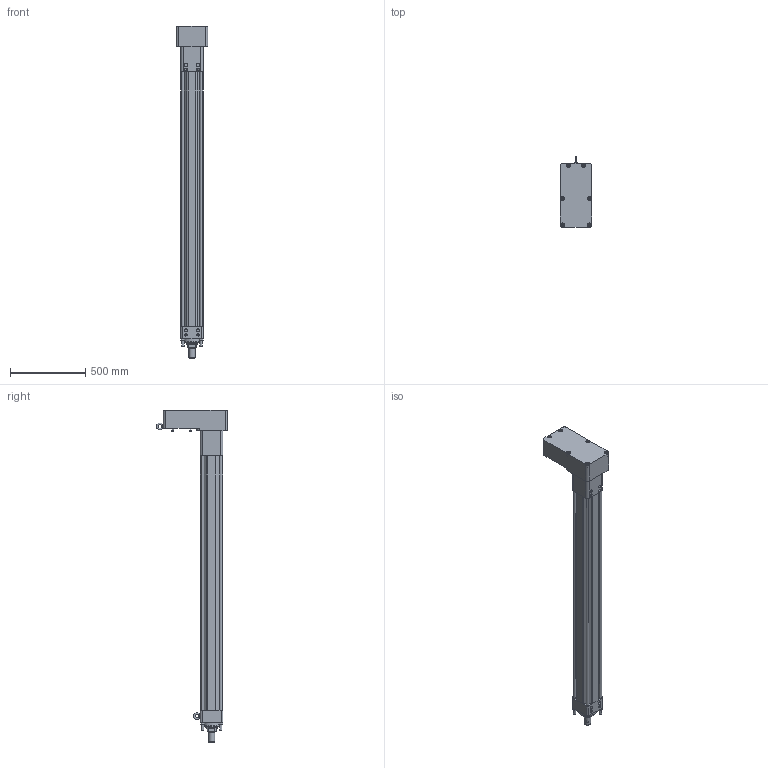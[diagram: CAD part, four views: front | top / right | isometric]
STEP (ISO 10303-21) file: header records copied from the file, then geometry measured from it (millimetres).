
FILE_DESCRIPTION (( 'STEP AP203' ), '1' );
FILE_NAME ('RSX10_BN02_SM1373.000_RS-486868-1.step', '2025-04-23T15:58:05', ( '' ), ( '' ), 'SwSTEP 2.0', 'SolidWorks 2024', '' );
FILE_SCHEMA (( 'CONFIG_CONTROL_DESIGN' ));
Length unit declared in the file: inch
Products named in the file (3): tempJoin0_21719505_RSX10_BN02_SM1373.000_RS-486868-1; RSX10_BN02_SM1373.000_RS-486868-1; Base_RSX10_BN02_SM1373.000_RS-486868-1
Assembly tree (2 placements, depth 2):
  RSX10_BN02_SM1373.000_RS-486868-1
    tempJoin0_21719505_RSX10_BN02_SM1373.000_RS-486868-1
    Base_RSX10_BN02_SM1373.000_RS-486868-1
Bounding box: 209.55 x 470.94 x 2204.16 mm (x, y, z)
Volume: 32326008 mm3; surface area: 3394716.9 mm2
Topology: 8 solids, 12 shells, 1181 faces, 3021 edges, 1966 vertices
Faces by surface type: plane 586, cylinder 502, cone 73, bspline 12, torus 7, sphere 1
Full cylindrical faces by diameter (mm): 4.762 x1, 7.9 x1, 8 x2, 8.5 x8, 10.025 x8, 10.16 x6, 13.835 x2, 14 x10, 15.875 x13, 16 x4, 16.5 x6, 20.013 x4, 24 x6, 25 x2, 25.4 x7, 25.527 x4, 31.75 x1, 36.513 x2, 36.992 x1, 39.7 x1, 42 x1, 50.165 x1, 50.8 x1, 74.48 x1, 75 x1, 75.438 x1, 76.103 x2, 76.276 x1, 76.962 x1, 95.25 x1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
Entity records: 36573 total; most frequent: CARTESIAN_POINT 7820, DIRECTION 6256, ORIENTED_EDGE 5554, EDGE_CURVE 2777, AXIS2_PLACEMENT_3D 2385, VERTEX_POINT 1889, LINE 1486, VECTOR 1486
